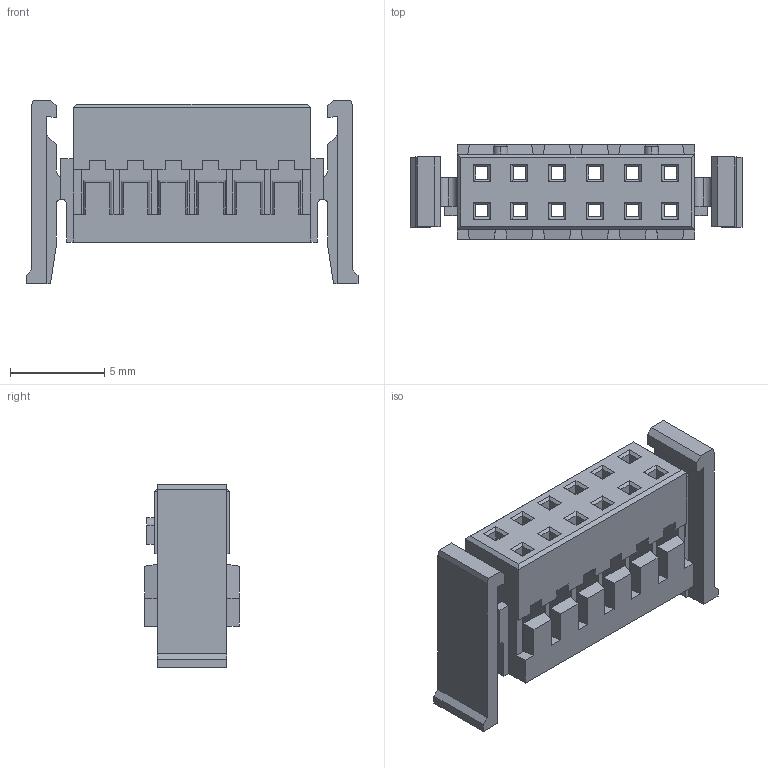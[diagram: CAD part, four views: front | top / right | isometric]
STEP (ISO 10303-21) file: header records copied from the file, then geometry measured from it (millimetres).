
FILE_DESCRIPTION (( 'STEP AP214' ), '1' );
FILE_NAME ('HC-PHDK-2x6Y-05 (PHDK 2.00 邧齬湍諶 謂釱-HCTL).STEP', '2025-01-04T08:26:31', ( '' ), ( '' ), 'SwSTEP 2.0', 'SolidWorks 2022', '' );
FILE_SCHEMA (( 'AUTOMOTIVE_DESIGN' ));
Length unit declared in the file: millimetre
Products named in the file (1): HC-PHDK-2x6Y-05 (PHDK 2.00 邧齬湍諶 謂釱-HCTL)
Bounding box: 17.6 x 5 x 9.75 mm (x, y, z)
Volume: 252.8 mm3; surface area: 1115.2 mm2
Topology: 1 solids, 1 shells, 361 faces, 1005 edges, 636 vertices
Faces by surface type: plane 351, cylinder 10
Entity records: 11337 total; most frequent: ORIENTED_EDGE 2010, CARTESIAN_POINT 2003, DIRECTION 1753, EDGE_CURVE 1005, LINE 981, VECTOR 981, VERTEX_POINT 636, EDGE_LOOP 399
